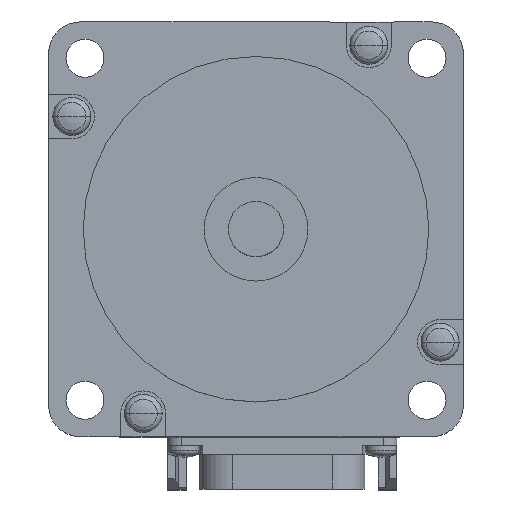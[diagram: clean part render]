
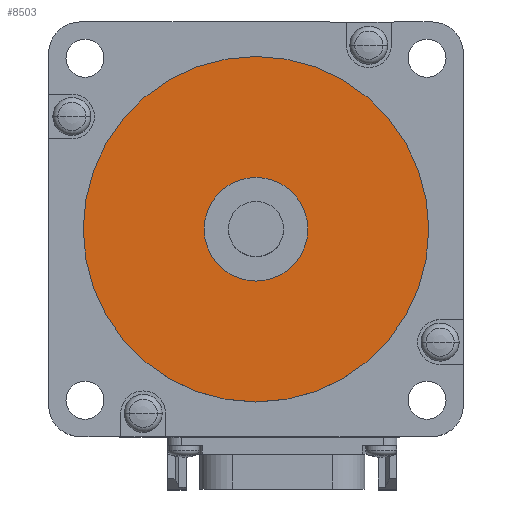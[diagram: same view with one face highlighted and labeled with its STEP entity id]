
A CAD part, top view. The second image highlights one B-rep face of the part: STEP entity #8503.
In plain terms, the highlighted planar face has unit normal (0, 0, 1).
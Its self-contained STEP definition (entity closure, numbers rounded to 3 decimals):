
#2062=CARTESIAN_POINT('',(0.,0.,3.));
#2063=DIRECTION('',(0.,0.,-1.));
#2064=DIRECTION('',(1.,0.,0.));
#2065=AXIS2_PLACEMENT_3D('',#2062,#2063,#2064);
#2067=CARTESIAN_POINT('',(0.,0.,3.));
#2068=DIRECTION('',(0.,0.,-1.));
#2069=DIRECTION('',(-1.,0.,0.));
#2070=AXIS2_PLACEMENT_3D('',#2067,#2068,#2069);
#2072=CARTESIAN_POINT('',(0.,0.,3.));
#2073=DIRECTION('',(0.,0.,1.));
#2074=DIRECTION('',(1.,0.,0.));
#2075=AXIS2_PLACEMENT_3D('',#2072,#2073,#2074);
#2077=CARTESIAN_POINT('',(0.,0.,3.));
#2078=DIRECTION('',(0.,0.,1.));
#2079=DIRECTION('',(-1.,0.,0.));
#2080=AXIS2_PLACEMENT_3D('',#2077,#2078,#2079);
#4629=CARTESIAN_POINT('',(25.,0.,3.));
#4630=VERTEX_POINT('',#4629);
#4631=CARTESIAN_POINT('',(-25.,0.,3.));
#4632=VERTEX_POINT('',#4631);
#5701=CARTESIAN_POINT('',(7.5,0.,3.));
#5702=CARTESIAN_POINT('',(-7.5,0.,3.));
#5703=VERTEX_POINT('',#5701);
#5704=VERTEX_POINT('',#5702);
#8487=CARTESIAN_POINT('',(0.,0.,3.));
#8488=DIRECTION('',(0.,0.,1.));
#8489=DIRECTION('',(1.,0.,0.));
#8490=AXIS2_PLACEMENT_3D('',#8487,#8488,#8489);
#8491=PLANE('',#8490);
#8492=ORIENTED_EDGE('',*,*,#8477,.T.);
#8494=ORIENTED_EDGE('',*,*,#8493,.T.);
#8495=EDGE_LOOP('',(#8492,#8494));
#8496=FACE_OUTER_BOUND('',#8495,.F.);
#8498=ORIENTED_EDGE('',*,*,#8497,.T.);
#8500=ORIENTED_EDGE('',*,*,#8499,.T.);
#8501=EDGE_LOOP('',(#8498,#8500));
#8502=FACE_BOUND('',#8501,.F.);
#8503=ADVANCED_FACE('',(#8496,#8502),#8491,.T.);
#2066=CIRCLE('',#2065,25.);
#2071=CIRCLE('',#2070,25.);
#2076=CIRCLE('',#2075,7.5);
#2081=CIRCLE('',#2080,7.5);
#8477=EDGE_CURVE('',#4630,#4632,#2066,.T.);
#8493=EDGE_CURVE('',#4632,#4630,#2071,.T.);
#8497=EDGE_CURVE('',#5703,#5704,#2076,.T.);
#8499=EDGE_CURVE('',#5704,#5703,#2081,.T.);
